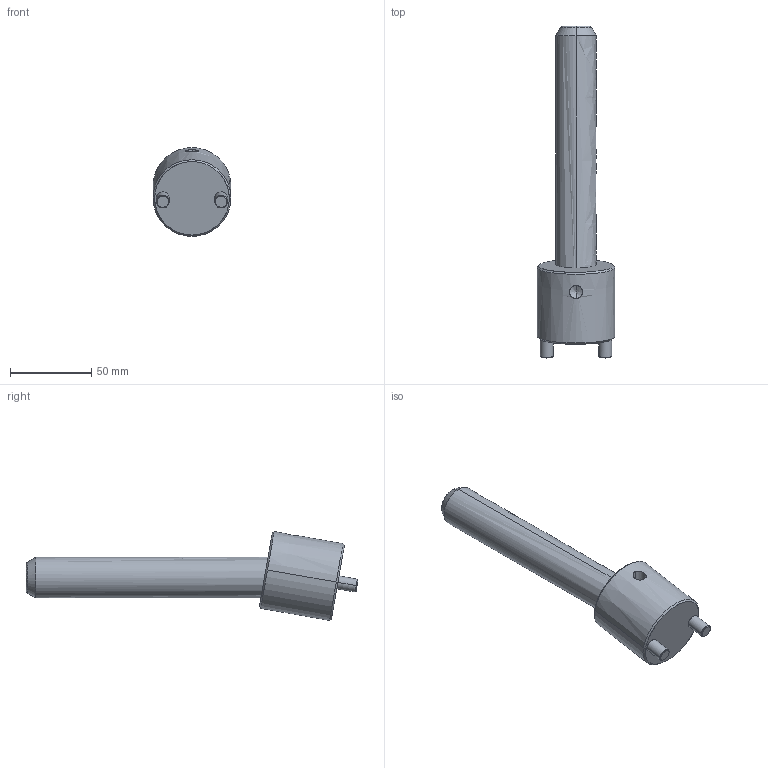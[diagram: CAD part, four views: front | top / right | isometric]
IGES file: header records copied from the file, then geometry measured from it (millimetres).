
Start section: START RECORD GO HERE.
Global section: file name: CI1025150.igs; native system: DASSAULT SYSTEMES CATIA V5 R20 - www.3ds.com; preprocessor: CATIA Version 5 Release 20 ; author: r.borello; organization: CFTORINO; date: 20190621.155735; units: millimetre
Bounding box: 48 x 204.61 x 54.74 mm (x, y, z)
Surface area: 29383.7 mm2 (no closed solid volume)
Topology: 0 solids, 0 shells, 39 faces, 162 edges, 160 vertices
Faces by surface type: revolution 32, plane 7
